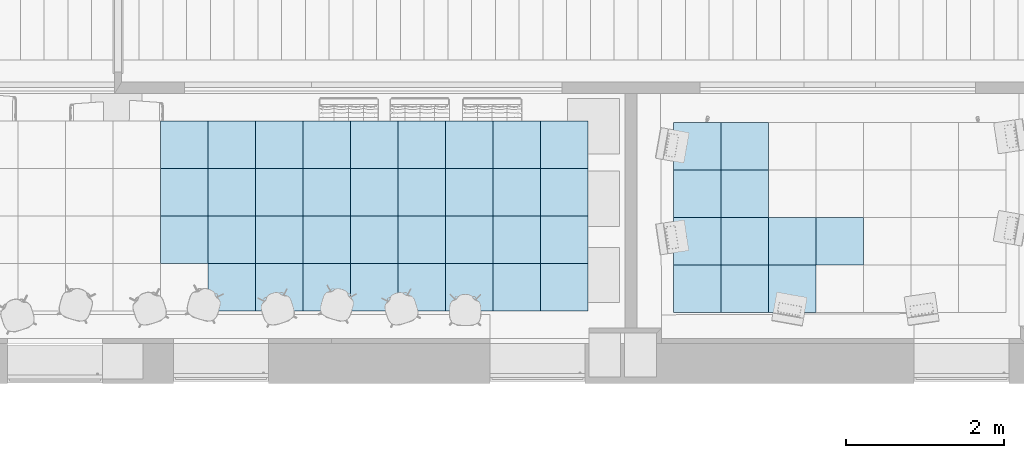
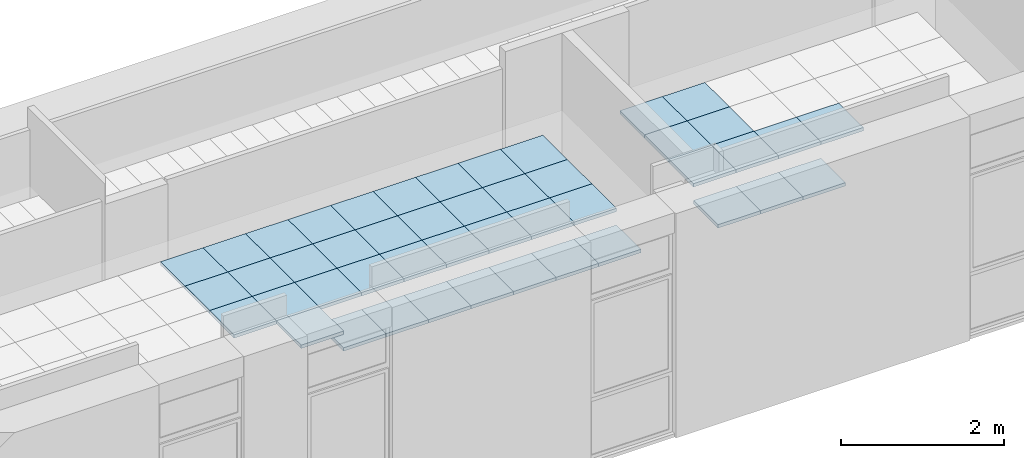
# One storey, part 18 of 60: 46 slabs.
"""IFC2X3 building model written with IfcOpenShell, lengths in millimetres."""

from ifc_helpers import new_model, entity, si_unit, converted_unit, derived_unit, money_unit, direction, frame, origin_with_axes, place, context, subcontext, project, spatial, polyline, outline, extrude, material, layer, layer_set, layer_usage, type_object, element, save


model = new_model("IFC2X3")

# Units and contexts
model_context = context("Model", 3, precision=0.01, world=origin_with_axes(), true_north=direction((0.0, 1.0)))
body_context = subcontext(model_context, "Body", "Model", "MODEL_VIEW")
ifc_project = project(units=[si_unit("LENGTHUNIT", "METRE", prefix="MILLI"), si_unit("AREAUNIT", "SQUARE_METRE"), si_unit("VOLUMEUNIT", "CUBIC_METRE"), converted_unit("PLANEANGLEUNIT", "DEGREE", entity("IfcPlaneAngleMeasure", 0.0174532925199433), si_unit("PLANEANGLEUNIT", "RADIAN"), dimensions=[0, 0, 0, 0, 0, 0, 0]), money_unit("USD"), converted_unit("TIMEUNIT", "Year", entity("IfcTimeMeasure", 31557600.0), si_unit("TIMEUNIT", "SECOND"), dimensions=[0, 0, 1, 0, 0, 0, 0]), si_unit("MASSUNIT", "GRAM", prefix="KILO"), si_unit("THERMODYNAMICTEMPERATUREUNIT", "DEGREE_CELSIUS"), si_unit("LUMINOUSINTENSITYUNIT", "LUMEN"), si_unit("ENERGYUNIT", "JOULE", prefix="MEGA"), derived_unit("THERMALCONDUCTANCEUNIT", [(si_unit("POWERUNIT", "WATT"), 1), (si_unit("LENGTHUNIT", "METRE"), -1), (si_unit("THERMODYNAMICTEMPERATUREUNIT", "KELVIN"), -1)]), derived_unit("SPECIFICHEATCAPACITYUNIT", [(si_unit("ENERGYUNIT", "JOULE"), 1), (si_unit("MASSUNIT", "GRAM", prefix="KILO"), -1), (si_unit("THERMODYNAMICTEMPERATUREUNIT", "KELVIN"), -1)]), derived_unit("MASSDENSITYUNIT", [(si_unit("MASSUNIT", "GRAM", prefix="KILO"), 1), (si_unit("VOLUMEUNIT", "CUBIC_METRE"), -1)])], contexts=[model_context])

# Site, building, storey
site_placement = place(None, origin_with_axes())
site = spatial("IfcSite", under=ifc_project, at=site_placement, Name="Sitio", CompositionType="ELEMENT")
building_placement = place(site_placement, origin_with_axes())
building = spatial("IfcBuilding", under=site, at=building_placement, Name="Construcción", CompositionType="ELEMENT")
storey_placement = place(building_placement, frame((0.0, 0.0, 3650.0), z_axis=(0.0, 0.0, 1.0), x_axis=(1.0, 0.0, 0.0)))
storey = spatial("IfcBuildingStorey", under=building, at=storey_placement, Name="PLANTA 2ª", CompositionType="ELEMENT", Elevation=3650.0)

# Slabs
ifc_material = material(Name="ARQ_CE217_Armstrong 60x60")
ifc_layer = layer(ifc_material, 50.0, ventilated="UNKNOWN")
ifc_layer_set = layer_set([ifc_layer], Name="ARQ_CE217_Armstrong 60x60 50")
ifc_layer_usage_1 = layer_usage(ifc_layer_set, "AXIS3", "NEGATIVE", 50.0)
slab_type = type_object("IfcSlabType", Name="ARQ_CE217_Armstrong 60x60 50", PredefinedType="NOTDEFINED")
slab_1_placement = place(storey_placement, frame((-14698.41789761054, 1017.289523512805, 2500.0), z_axis=(0.0, 0.0, 1.0), x_axis=(1.0, 0.0, 0.0)))
element("IfcSlab", 1, at=slab_1_placement, inside=storey, type_object=slab_type, material=ifc_layer_usage_1, Name="SLA - 026", PredefinedType="NOTDEFINED", context=body_context, shape_type="SweptSolid", body=[
    extrude(outline(polyline([(0.0, 0.0), (600.0000000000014, 0.0), (600.0000000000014, 600.0000000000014), (0.0, 600.0000000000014), (0.0, 0.0)])), frame((0.0, 0.0, -50.0), z_axis=(0.0, 0.0, 1.0), x_axis=(1.0, 0.0, 0.0)), (0.0, 0.0, 1.0), 50.0),
])
ifc_layer_usage_2 = layer_usage(ifc_layer_set, "AXIS3", "NEGATIVE", 50.0)
slab_2_placement = place(storey_placement, frame((-14098.41789761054, 417.2895235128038, 2500.0), z_axis=(0.0, 0.0, 1.0), x_axis=(1.0, 0.0, 0.0)))
element("IfcSlab", 2, at=slab_2_placement, inside=storey, type_object=slab_type, material=ifc_layer_usage_2, Name="SLA - 026", PredefinedType="NOTDEFINED", context=body_context, shape_type="SweptSolid", body=[
    extrude(outline(polyline([(0.0, 0.0), (599.9999999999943, 0.0), (599.9999999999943, 600.0000000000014), (0.0, 600.0000000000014), (0.0, 0.0)])), frame((0.0, 0.0, -50.0), z_axis=(0.0, 0.0, 1.0), x_axis=(1.0, 0.0, 0.0)), (0.0, 0.0, 1.0), 50.0),
])
ifc_layer_usage_3 = layer_usage(ifc_layer_set, "AXIS3", "NEGATIVE", 50.0)
slab_3_placement = place(storey_placement, frame((-16498.41789761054, -182.7104764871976, 2500.0), z_axis=(0.0, 0.0, 1.0), x_axis=(1.0, 0.0, 0.0)))
element("IfcSlab", 3, at=slab_3_placement, inside=storey, type_object=slab_type, material=ifc_layer_usage_3, Name="SLA - 026", PredefinedType="NOTDEFINED", context=body_context, shape_type="SweptSolid", body=[
    extrude(outline(polyline([(0.0, 0.0), (600.0000000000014, 0.0), (600.0000000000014, 600.0000000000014), (0.0, 600.0000000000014), (0.0, 0.0)])), frame((0.0, 0.0, -50.0), z_axis=(0.0, 0.0, 1.0), x_axis=(1.0, 0.0, 0.0)), (0.0, 0.0, 1.0), 50.0),
])
ifc_layer_usage_4 = layer_usage(ifc_layer_set, "AXIS3", "NEGATIVE", 50.0)
slab_4_placement = place(storey_placement, frame((-13498.41789761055, 417.2895235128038, 2500.0), z_axis=(0.0, 0.0, 1.0), x_axis=(1.0, 0.0, 0.0)))
element("IfcSlab", 4, at=slab_4_placement, inside=storey, type_object=slab_type, material=ifc_layer_usage_4, Name="SLA - 026", PredefinedType="NOTDEFINED", context=body_context, shape_type="SweptSolid", body=[
    extrude(outline(polyline([(0.0, 0.0), (600.0000000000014, 0.0), (600.0000000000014, 600.0000000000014), (0.0, 600.0000000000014), (0.0, 0.0)])), frame((0.0, 0.0, -50.0), z_axis=(0.0, 0.0, 1.0), x_axis=(1.0, 0.0, 0.0)), (0.0, 0.0, 1.0), 50.0),
])
ifc_layer_usage_5 = layer_usage(ifc_layer_set, "AXIS3", "NEGATIVE", 50.0)
slab_5_placement = place(storey_placement, frame((-15298.41789761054, 1017.289523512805, 2500.0), z_axis=(0.0, 0.0, 1.0), x_axis=(1.0, 0.0, 0.0)))
element("IfcSlab", 5, at=slab_5_placement, inside=storey, type_object=slab_type, material=ifc_layer_usage_5, Name="SLA - 026", PredefinedType="NOTDEFINED", context=body_context, shape_type="SweptSolid", body=[
    extrude(outline(polyline([(0.0, 0.0), (600.0000000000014, 0.0), (600.0000000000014, 600.0000000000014), (0.0, 600.0000000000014), (0.0, 0.0)])), frame((0.0, 0.0, -50.0), z_axis=(0.0, 0.0, 1.0), x_axis=(1.0, 0.0, 0.0)), (0.0, 0.0, 1.0), 50.0),
])
ifc_layer_usage_6 = layer_usage(ifc_layer_set, "AXIS3", "NEGATIVE", 50.0)
slab_6_placement = place(storey_placement, frame((-13498.41789761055, -182.7104764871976, 2500.0), z_axis=(0.0, 0.0, 1.0), x_axis=(1.0, 0.0, 0.0)))
element("IfcSlab", 6, at=slab_6_placement, inside=storey, type_object=slab_type, material=ifc_layer_usage_6, Name="SLA - 026", PredefinedType="NOTDEFINED", context=body_context, shape_type="SweptSolid", body=[
    extrude(outline(polyline([(0.0, 0.0), (600.0000000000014, 0.0), (600.0000000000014, 600.0000000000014), (0.0, 600.0000000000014), (0.0, 0.0)])), frame((0.0, 0.0, -50.0), z_axis=(0.0, 0.0, 1.0), x_axis=(1.0, 0.0, 0.0)), (0.0, 0.0, 1.0), 50.0),
])
ifc_layer_usage_7 = layer_usage(ifc_layer_set, "AXIS3", "NEGATIVE", 50.0)
slab_7_placement = place(storey_placement, frame((-14098.41789761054, 1017.289523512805, 2500.0), z_axis=(0.0, 0.0, 1.0), x_axis=(1.0, 0.0, 0.0)))
element("IfcSlab", 7, at=slab_7_placement, inside=storey, type_object=slab_type, material=ifc_layer_usage_7, Name="SLA - 026", PredefinedType="NOTDEFINED", context=body_context, shape_type="SweptSolid", body=[
    extrude(outline(polyline([(0.0, 0.0), (600.0000000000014, 0.0), (600.0000000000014, 600.0000000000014), (0.0, 600.0000000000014), (0.0, 0.0)])), frame((0.0, 0.0, -50.0), z_axis=(0.0, 0.0, 1.0), x_axis=(1.0, 0.0, 0.0)), (0.0, 0.0, 1.0), 50.0),
])
ifc_layer_usage_8 = layer_usage(ifc_layer_set, "AXIS3", "NEGATIVE", 50.0)
slab_8_placement = place(storey_placement, frame((-15898.41789761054, 417.2895235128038, 2500.0), z_axis=(0.0, 0.0, 1.0), x_axis=(1.0, 0.0, 0.0)))
element("IfcSlab", 8, at=slab_8_placement, inside=storey, type_object=slab_type, material=ifc_layer_usage_8, Name="SLA - 026", PredefinedType="NOTDEFINED", context=body_context, shape_type="SweptSolid", body=[
    extrude(outline(polyline([(0.0, 0.0), (599.9999999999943, 0.0), (599.9999999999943, 600.0000000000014), (0.0, 600.0000000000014), (0.0, 0.0)])), frame((0.0, 0.0, -50.0), z_axis=(0.0, 0.0, 1.0), x_axis=(1.0, 0.0, 0.0)), (0.0, 0.0, 1.0), 50.0),
])
ifc_layer_usage_9 = layer_usage(ifc_layer_set, "AXIS3", "NEGATIVE", 50.0)
slab_9_placement = place(storey_placement, frame((-13498.41789761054, 1017.289523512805, 2500.0), z_axis=(0.0, 0.0, 1.0), x_axis=(1.0, 0.0, 0.0)))
element("IfcSlab", 9, at=slab_9_placement, inside=storey, type_object=slab_type, material=ifc_layer_usage_9, Name="SLA - 026", PredefinedType="NOTDEFINED", context=body_context, shape_type="SweptSolid", body=[
    extrude(outline(polyline([(0.0, 0.0), (600.0000000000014, 0.0), (600.0000000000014, 600.0000000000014), (0.0, 600.0000000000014), (0.0, 0.0)])), frame((0.0, 0.0, -50.0), z_axis=(0.0, 0.0, 1.0), x_axis=(1.0, 0.0, 0.0)), (0.0, 0.0, 1.0), 50.0),
])
ifc_layer_usage_10 = layer_usage(ifc_layer_set, "AXIS3", "NEGATIVE", 50.0)
slab_10_placement = place(storey_placement, frame((-15898.41789761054, 1017.289523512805, 2500.0), z_axis=(0.0, 0.0, 1.0), x_axis=(1.0, 0.0, 0.0)))
element("IfcSlab", 10, at=slab_10_placement, inside=storey, type_object=slab_type, material=ifc_layer_usage_10, Name="SLA - 026", PredefinedType="NOTDEFINED", context=body_context, shape_type="SweptSolid", body=[
    extrude(outline(polyline([(0.0, 0.0), (599.9999999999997, 0.0), (599.9999999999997, 600.0000000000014), (0.0, 600.0000000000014), (0.0, 0.0)])), frame((0.0, 0.0, -50.0), z_axis=(0.0, 0.0, 1.0), x_axis=(1.0, 0.0, 0.0)), (0.0, 0.0, 1.0), 50.0),
])
ifc_layer_usage_11 = layer_usage(ifc_layer_set, "AXIS3", "NEGATIVE", 50.0)
slab_11_placement = place(storey_placement, frame((-16498.41789761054, 417.2895235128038, 2500.0), z_axis=(0.0, 0.0, 1.0), x_axis=(1.0, 0.0, 0.0)))
element("IfcSlab", 11, at=slab_11_placement, inside=storey, type_object=slab_type, material=ifc_layer_usage_11, Name="SLA - 026", PredefinedType="NOTDEFINED", context=body_context, shape_type="SweptSolid", body=[
    extrude(outline(polyline([(0.0, 0.0), (600.0000000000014, 0.0), (600.0000000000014, 600.0000000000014), (0.0, 600.0000000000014), (0.0, 0.0)])), frame((0.0, 0.0, -50.0), z_axis=(0.0, 0.0, 1.0), x_axis=(1.0, 0.0, 0.0)), (0.0, 0.0, 1.0), 50.0),
])
ifc_layer_usage_12 = layer_usage(ifc_layer_set, "AXIS3", "NEGATIVE", 50.0)
slab_12_placement = place(storey_placement, frame((-17698.41789761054, -782.710476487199, 2500.0), z_axis=(0.0, 0.0, 1.0), x_axis=(1.0, 0.0, 0.0)))
element("IfcSlab", 12, at=slab_12_placement, inside=storey, type_object=slab_type, material=ifc_layer_usage_12, Name="SLA - 026", PredefinedType="NOTDEFINED", context=body_context, shape_type="SweptSolid", body=[
    extrude(outline(polyline([(0.0, 0.0), (599.9999999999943, 0.0), (599.9999999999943, 600.0000000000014), (0.0, 600.0000000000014), (0.0, 0.0)])), frame((0.0, 0.0, -50.0), z_axis=(0.0, 0.0, 1.0), x_axis=(1.0, 0.0, 0.0)), (0.0, 0.0, 1.0), 50.0),
])
ifc_layer_usage_13 = layer_usage(ifc_layer_set, "AXIS3", "NEGATIVE", 50.0)
slab_13_placement = place(storey_placement, frame((-17698.41789761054, -182.7104764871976, 2500.0), z_axis=(0.0, 0.0, 1.0), x_axis=(1.0, 0.0, 0.0)))
element("IfcSlab", 13, at=slab_13_placement, inside=storey, type_object=slab_type, material=ifc_layer_usage_13, Name="SLA - 026", PredefinedType="NOTDEFINED", context=body_context, shape_type="SweptSolid", body=[
    extrude(outline(polyline([(0.0, 0.0), (599.9999999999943, 0.0), (599.9999999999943, 600.0000000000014), (0.0, 600.0000000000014), (0.0, 0.0)])), frame((0.0, 0.0, -50.0), z_axis=(0.0, 0.0, 1.0), x_axis=(1.0, 0.0, 0.0)), (0.0, 0.0, 1.0), 50.0),
])
ifc_layer_usage_14 = layer_usage(ifc_layer_set, "AXIS3", "NEGATIVE", 50.0)
slab_14_placement = place(storey_placement, frame((-18298.41789761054, -182.7104764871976, 2500.0), z_axis=(0.0, 0.0, 1.0), x_axis=(1.0, 0.0, 0.0)))
element("IfcSlab", 14, at=slab_14_placement, inside=storey, type_object=slab_type, material=ifc_layer_usage_14, Name="SLA - 026", PredefinedType="NOTDEFINED", context=body_context, shape_type="SweptSolid", body=[
    extrude(outline(polyline([(0.0, 0.0), (600.0000000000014, 0.0), (600.0000000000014, 600.0000000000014), (0.0, 600.0000000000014), (0.0, 0.0)])), frame((0.0, 0.0, -50.0), z_axis=(0.0, 0.0, 1.0), x_axis=(1.0, 0.0, 0.0)), (0.0, 0.0, 1.0), 50.0),
])
ifc_layer_usage_15 = layer_usage(ifc_layer_set, "AXIS3", "NEGATIVE", 50.0)
slab_15_placement = place(storey_placement, frame((-15298.41789761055, -182.7104764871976, 2500.0), z_axis=(0.0, 0.0, 1.0), x_axis=(1.0, 0.0, 0.0)))
element("IfcSlab", 15, at=slab_15_placement, inside=storey, type_object=slab_type, material=ifc_layer_usage_15, Name="SLA - 026", PredefinedType="NOTDEFINED", context=body_context, shape_type="SweptSolid", body=[
    extrude(outline(polyline([(0.0, 0.0), (600.0000000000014, 0.0), (600.0000000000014, 600.0000000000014), (0.0, 600.0000000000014), (0.0, 0.0)])), frame((0.0, 0.0, -50.0), z_axis=(0.0, 0.0, 1.0), x_axis=(1.0, 0.0, 0.0)), (0.0, 0.0, 1.0), 50.0),
])
ifc_layer_usage_16 = layer_usage(ifc_layer_set, "AXIS3", "NEGATIVE", 50.0)
slab_16_placement = place(storey_placement, frame((-13498.41789761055, -782.710476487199, 2250.0), z_axis=(0.0, 0.0, 1.0), x_axis=(1.0, 0.0, 0.0)))
element("IfcSlab", 16, at=slab_16_placement, inside=storey, type_object=slab_type, material=ifc_layer_usage_16, Name="SLA - 026", PredefinedType="NOTDEFINED", context=body_context, shape_type="SweptSolid", body=[
    extrude(outline(polyline([(0.0, 0.0), (600.0000000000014, 0.0), (600.0000000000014, 600.0000000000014), (0.0, 600.0000000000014), (0.0, 0.0)])), frame((0.0, 0.0, -50.0), z_axis=(0.0, 0.0, 1.0), x_axis=(1.0, 0.0, 0.0)), (0.0, 0.0, 1.0), 50.0),
])
ifc_layer_usage_17 = layer_usage(ifc_layer_set, "AXIS3", "NEGATIVE", 50.0)
slab_17_placement = place(storey_placement, frame((-15898.41789761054, -182.7104764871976, 2500.0), z_axis=(0.0, 0.0, 1.0), x_axis=(1.0, 0.0, 0.0)))
element("IfcSlab", 17, at=slab_17_placement, inside=storey, type_object=slab_type, material=ifc_layer_usage_17, Name="SLA - 026", PredefinedType="NOTDEFINED", context=body_context, shape_type="SweptSolid", body=[
    extrude(outline(polyline([(0.0, 0.0), (599.9999999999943, 0.0), (599.9999999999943, 600.0000000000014), (0.0, 600.0000000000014), (0.0, 0.0)])), frame((0.0, 0.0, -50.0), z_axis=(0.0, 0.0, 1.0), x_axis=(1.0, 0.0, 0.0)), (0.0, 0.0, 1.0), 50.0),
])
ifc_layer_usage_18 = layer_usage(ifc_layer_set, "AXIS3", "NEGATIVE", 50.0)
slab_18_placement = place(storey_placement, frame((-17098.41789761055, 417.2895235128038, 2500.0), z_axis=(0.0, 0.0, 1.0), x_axis=(1.0, 0.0, 0.0)))
element("IfcSlab", 18, at=slab_18_placement, inside=storey, type_object=slab_type, material=ifc_layer_usage_18, Name="SLA - 026", PredefinedType="NOTDEFINED", context=body_context, shape_type="SweptSolid", body=[
    extrude(outline(polyline([(0.0, 0.0), (600.0000000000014, 0.0), (600.0000000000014, 600.0000000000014), (0.0, 600.0000000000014), (0.0, 0.0)])), frame((0.0, 0.0, -50.0), z_axis=(0.0, 0.0, 1.0), x_axis=(1.0, 0.0, 0.0)), (0.0, 0.0, 1.0), 50.0),
])
ifc_layer_usage_19 = layer_usage(ifc_layer_set, "AXIS3", "NEGATIVE", 50.0)
slab_19_placement = place(storey_placement, frame((-18298.41789761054, 417.2895235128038, 2500.0), z_axis=(0.0, 0.0, 1.0), x_axis=(1.0, 0.0, 0.0)))
element("IfcSlab", 19, at=slab_19_placement, inside=storey, type_object=slab_type, material=ifc_layer_usage_19, Name="SLA - 026", PredefinedType="NOTDEFINED", context=body_context, shape_type="SweptSolid", body=[
    extrude(outline(polyline([(0.0, 0.0), (600.0000000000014, 0.0), (600.0000000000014, 600.0000000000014), (0.0, 600.0000000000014), (0.0, 0.0)])), frame((0.0, 0.0, -50.0), z_axis=(0.0, 0.0, 1.0), x_axis=(1.0, 0.0, 0.0)), (0.0, 0.0, 1.0), 50.0),
])
ifc_layer_usage_20 = layer_usage(ifc_layer_set, "AXIS3", "NEGATIVE", 50.0)
slab_20_placement = place(storey_placement, frame((-17698.41789761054, 417.2895235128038, 2500.0), z_axis=(0.0, 0.0, 1.0), x_axis=(1.0, 0.0, 0.0)))
element("IfcSlab", 20, at=slab_20_placement, inside=storey, type_object=slab_type, material=ifc_layer_usage_20, Name="SLA - 026", PredefinedType="NOTDEFINED", context=body_context, shape_type="SweptSolid", body=[
    extrude(outline(polyline([(0.0, 0.0), (599.9999999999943, 0.0), (599.9999999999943, 600.0000000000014), (0.0, 600.0000000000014), (0.0, 0.0)])), frame((0.0, 0.0, -50.0), z_axis=(0.0, 0.0, 1.0), x_axis=(1.0, 0.0, 0.0)), (0.0, 0.0, 1.0), 50.0),
])
ifc_layer_usage_21 = layer_usage(ifc_layer_set, "AXIS3", "NEGATIVE", 50.0)
slab_21_placement = place(storey_placement, frame((-16498.41789761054, -782.710476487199, 2250.0), z_axis=(0.0, 0.0, 1.0), x_axis=(1.0, 0.0, 0.0)))
element("IfcSlab", 21, at=slab_21_placement, inside=storey, type_object=slab_type, material=ifc_layer_usage_21, Name="SLA - 026", PredefinedType="NOTDEFINED", context=body_context, shape_type="SweptSolid", body=[
    extrude(outline(polyline([(0.0, 0.0), (600.0000000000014, 0.0), (600.0000000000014, 600.0000000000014), (0.0, 600.0000000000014), (0.0, 0.0)])), frame((0.0, 0.0, -50.0), z_axis=(0.0, 0.0, 1.0), x_axis=(1.0, 0.0, 0.0)), (0.0, 0.0, 1.0), 50.0),
])
ifc_layer_usage_22 = layer_usage(ifc_layer_set, "AXIS3", "NEGATIVE", 50.0)
slab_22_placement = place(storey_placement, frame((-15298.41789761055, -782.710476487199, 2250.0), z_axis=(0.0, 0.0, 1.0), x_axis=(1.0, 0.0, 0.0)))
element("IfcSlab", 22, at=slab_22_placement, inside=storey, type_object=slab_type, material=ifc_layer_usage_22, Name="SLA - 026", PredefinedType="NOTDEFINED", context=body_context, shape_type="SweptSolid", body=[
    extrude(outline(polyline([(0.0, 0.0), (600.0000000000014, 0.0), (600.0000000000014, 600.0000000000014), (0.0, 600.0000000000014), (0.0, 0.0)])), frame((0.0, 0.0, -50.0), z_axis=(0.0, 0.0, 1.0), x_axis=(1.0, 0.0, 0.0)), (0.0, 0.0, 1.0), 50.0),
])
ifc_layer_usage_23 = layer_usage(ifc_layer_set, "AXIS3", "NEGATIVE", 50.0)
slab_23_placement = place(storey_placement, frame((-17098.41789761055, -782.710476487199, 2250.0), z_axis=(0.0, 0.0, 1.0), x_axis=(1.0, 0.0, 0.0)))
element("IfcSlab", 23, at=slab_23_placement, inside=storey, type_object=slab_type, material=ifc_layer_usage_23, Name="SLA - 026", PredefinedType="NOTDEFINED", context=body_context, shape_type="SweptSolid", body=[
    extrude(outline(polyline([(0.0, 0.0), (600.0000000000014, 0.0), (600.0000000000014, 600.0000000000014), (0.0, 600.0000000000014), (0.0, 0.0)])), frame((0.0, 0.0, -50.0), z_axis=(0.0, 0.0, 1.0), x_axis=(1.0, 0.0, 0.0)), (0.0, 0.0, 1.0), 50.0),
])
ifc_layer_usage_24 = layer_usage(ifc_layer_set, "AXIS3", "NEGATIVE", 50.0)
slab_24_placement = place(storey_placement, frame((-14098.41789761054, -182.7104764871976, 2500.0), z_axis=(0.0, 0.0, 1.0), x_axis=(1.0, 0.0, 0.0)))
element("IfcSlab", 24, at=slab_24_placement, inside=storey, type_object=slab_type, material=ifc_layer_usage_24, Name="SLA - 026", PredefinedType="NOTDEFINED", context=body_context, shape_type="SweptSolid", body=[
    extrude(outline(polyline([(0.0, 0.0), (599.9999999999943, 0.0), (599.9999999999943, 600.0000000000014), (0.0, 600.0000000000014), (0.0, 0.0)])), frame((0.0, 0.0, -50.0), z_axis=(0.0, 0.0, 1.0), x_axis=(1.0, 0.0, 0.0)), (0.0, 0.0, 1.0), 50.0),
])
ifc_layer_usage_25 = layer_usage(ifc_layer_set, "AXIS3", "NEGATIVE", 50.0)
slab_25_placement = place(storey_placement, frame((-14698.41789761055, 417.2895235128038, 2500.0), z_axis=(0.0, 0.0, 1.0), x_axis=(1.0, 0.0, 0.0)))
element("IfcSlab", 25, at=slab_25_placement, inside=storey, type_object=slab_type, material=ifc_layer_usage_25, Name="SLA - 026", PredefinedType="NOTDEFINED", context=body_context, shape_type="SweptSolid", body=[
    extrude(outline(polyline([(0.0, 0.0), (600.000000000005, 0.0), (600.000000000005, 600.0000000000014), (0.0, 600.0000000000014), (0.0, 0.0)])), frame((0.0, 0.0, -50.0), z_axis=(0.0, 0.0, 1.0), x_axis=(1.0, 0.0, 0.0)), (0.0, 0.0, 1.0), 50.0),
])
ifc_layer_usage_26 = layer_usage(ifc_layer_set, "AXIS3", "NEGATIVE", 50.0)
slab_26_placement = place(storey_placement, frame((-14698.41789761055, -182.7104764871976, 2500.0), z_axis=(0.0, 0.0, 1.0), x_axis=(1.0, 0.0, 0.0)))
element("IfcSlab", 26, at=slab_26_placement, inside=storey, type_object=slab_type, material=ifc_layer_usage_26, Name="SLA - 026", PredefinedType="NOTDEFINED", context=body_context, shape_type="SweptSolid", body=[
    extrude(outline(polyline([(0.0, 0.0), (600.000000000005, 0.0), (600.000000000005, 600.0000000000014), (0.0, 600.0000000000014), (0.0, 0.0)])), frame((0.0, 0.0, -50.0), z_axis=(0.0, 0.0, 1.0), x_axis=(1.0, 0.0, 0.0)), (0.0, 0.0, 1.0), 50.0),
])
ifc_layer_usage_27 = layer_usage(ifc_layer_set, "AXIS3", "NEGATIVE", 50.0)
slab_27_placement = place(storey_placement, frame((-14098.41789761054, -782.710476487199, 2250.0), z_axis=(0.0, 0.0, 1.0), x_axis=(1.0, 0.0, 0.0)))
element("IfcSlab", 27, at=slab_27_placement, inside=storey, type_object=slab_type, material=ifc_layer_usage_27, Name="SLA - 026", PredefinedType="NOTDEFINED", context=body_context, shape_type="SweptSolid", body=[
    extrude(outline(polyline([(0.0, 0.0), (599.9999999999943, 0.0), (599.9999999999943, 600.0000000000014), (0.0, 600.0000000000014), (0.0, 0.0)])), frame((0.0, 0.0, -50.0), z_axis=(0.0, 0.0, 1.0), x_axis=(1.0, 0.0, 0.0)), (0.0, 0.0, 1.0), 50.0),
])
ifc_layer_usage_28 = layer_usage(ifc_layer_set, "AXIS3", "NEGATIVE", 50.0)
slab_28_placement = place(storey_placement, frame((-14698.41789761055, -782.710476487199, 2250.0), z_axis=(0.0, 0.0, 1.0), x_axis=(1.0, 0.0, 0.0)))
element("IfcSlab", 28, at=slab_28_placement, inside=storey, type_object=slab_type, material=ifc_layer_usage_28, Name="SLA - 026", PredefinedType="NOTDEFINED", context=body_context, shape_type="SweptSolid", body=[
    extrude(outline(polyline([(0.0, 0.0), (600.000000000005, 0.0), (600.000000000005, 600.0000000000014), (0.0, 600.0000000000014), (0.0, 0.0)])), frame((0.0, 0.0, -50.0), z_axis=(0.0, 0.0, 1.0), x_axis=(1.0, 0.0, 0.0)), (0.0, 0.0, 1.0), 50.0),
])
ifc_layer_usage_29 = layer_usage(ifc_layer_set, "AXIS3", "NEGATIVE", 50.0)
slab_29_placement = place(storey_placement, frame((-15898.41789761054, -782.710476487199, 2250.0), z_axis=(0.0, 0.0, 1.0), x_axis=(1.0, 0.0, 0.0)))
element("IfcSlab", 29, at=slab_29_placement, inside=storey, type_object=slab_type, material=ifc_layer_usage_29, Name="SLA - 026", PredefinedType="NOTDEFINED", context=body_context, shape_type="SweptSolid", body=[
    extrude(outline(polyline([(0.0, 0.0), (599.9999999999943, 0.0), (599.9999999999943, 600.0000000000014), (0.0, 600.0000000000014), (0.0, 0.0)])), frame((0.0, 0.0, -50.0), z_axis=(0.0, 0.0, 1.0), x_axis=(1.0, 0.0, 0.0)), (0.0, 0.0, 1.0), 50.0),
])
ifc_layer_usage_30 = layer_usage(ifc_layer_set, "AXIS3", "NEGATIVE", 50.0)
slab_30_placement = place(storey_placement, frame((-15298.41789761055, 417.2895235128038, 2500.0), z_axis=(0.0, 0.0, 1.0), x_axis=(1.0, 0.0, 0.0)))
element("IfcSlab", 30, at=slab_30_placement, inside=storey, type_object=slab_type, material=ifc_layer_usage_30, Name="SLA - 026", PredefinedType="NOTDEFINED", context=body_context, shape_type="SweptSolid", body=[
    extrude(outline(polyline([(0.0, 0.0), (600.0000000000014, 0.0), (600.0000000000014, 600.0000000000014), (0.0, 600.0000000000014), (0.0, 0.0)])), frame((0.0, 0.0, -50.0), z_axis=(0.0, 0.0, 1.0), x_axis=(1.0, 0.0, 0.0)), (0.0, 0.0, 1.0), 50.0),
])
ifc_layer_usage_31 = layer_usage(ifc_layer_set, "AXIS3", "NEGATIVE", 50.0)
slab_31_placement = place(storey_placement, frame((-17098.41789761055, -182.7104764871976, 2500.0), z_axis=(0.0, 0.0, 1.0), x_axis=(1.0, 0.0, 0.0)))
element("IfcSlab", 31, at=slab_31_placement, inside=storey, type_object=slab_type, material=ifc_layer_usage_31, Name="SLA - 026", PredefinedType="NOTDEFINED", context=body_context, shape_type="SweptSolid", body=[
    extrude(outline(polyline([(0.0, 0.0), (600.0000000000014, 0.0), (600.0000000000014, 600.0000000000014), (0.0, 600.0000000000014), (0.0, 0.0)])), frame((0.0, 0.0, -50.0), z_axis=(0.0, 0.0, 1.0), x_axis=(1.0, 0.0, 0.0)), (0.0, 0.0, 1.0), 50.0),
])
ifc_layer_usage_32 = layer_usage(ifc_layer_set, "AXIS3", "NEGATIVE", 50.0)
slab_32_placement = place(storey_placement, frame((-18298.41789761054, 1017.289523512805, 2500.0), z_axis=(0.0, 0.0, 1.0), x_axis=(1.0, 0.0, 0.0)))
element("IfcSlab", 32, at=slab_32_placement, inside=storey, type_object=slab_type, material=ifc_layer_usage_32, Name="SLA - 026", PredefinedType="NOTDEFINED", context=body_context, shape_type="SweptSolid", body=[
    extrude(outline(polyline([(0.0, 0.0), (600.0000000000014, 0.0), (600.0000000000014, 600.0000000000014), (0.0, 600.0000000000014), (0.0, 0.0)])), frame((0.0, 0.0, -50.0), z_axis=(0.0, 0.0, 1.0), x_axis=(1.0, 0.0, 0.0)), (0.0, 0.0, 1.0), 50.0),
])
ifc_layer_usage_33 = layer_usage(ifc_layer_set, "AXIS3", "NEGATIVE", 50.0)
slab_33_placement = place(storey_placement, frame((-17698.41789761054, 1017.289523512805, 2500.0), z_axis=(0.0, 0.0, 1.0), x_axis=(1.0, 0.0, 0.0)))
element("IfcSlab", 33, at=slab_33_placement, inside=storey, type_object=slab_type, material=ifc_layer_usage_33, Name="SLA - 026", PredefinedType="NOTDEFINED", context=body_context, shape_type="SweptSolid", body=[
    extrude(outline(polyline([(0.0, 0.0), (600.0000000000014, 0.0), (600.0000000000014, 600.0000000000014), (0.0, 600.0000000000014), (0.0, 0.0)])), frame((0.0, 0.0, -50.0), z_axis=(0.0, 0.0, 1.0), x_axis=(1.0, 0.0, 0.0)), (0.0, 0.0, 1.0), 50.0),
])
ifc_layer_usage_34 = layer_usage(ifc_layer_set, "AXIS3", "NEGATIVE", 50.0)
slab_34_placement = place(storey_placement, frame((-17098.41789761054, 1017.289523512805, 2500.0), z_axis=(0.0, 0.0, 1.0), x_axis=(1.0, 0.0, 0.0)))
element("IfcSlab", 34, at=slab_34_placement, inside=storey, type_object=slab_type, material=ifc_layer_usage_34, Name="SLA - 026", PredefinedType="NOTDEFINED", context=body_context, shape_type="SweptSolid", body=[
    extrude(outline(polyline([(0.0, 0.0), (600.0000000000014, 0.0), (600.0000000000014, 600.0000000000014), (0.0, 600.0000000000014), (0.0, 0.0)])), frame((0.0, 0.0, -50.0), z_axis=(0.0, 0.0, 1.0), x_axis=(1.0, 0.0, 0.0)), (0.0, 0.0, 1.0), 50.0),
])
ifc_layer_usage_35 = layer_usage(ifc_layer_set, "AXIS3", "NEGATIVE", 50.0)
slab_35_placement = place(storey_placement, frame((-16498.41789761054, 1017.289523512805, 2500.0), z_axis=(0.0, 0.0, 1.0), x_axis=(1.0, 0.0, 0.0)))
element("IfcSlab", 35, at=slab_35_placement, inside=storey, type_object=slab_type, material=ifc_layer_usage_35, Name="SLA - 026", PredefinedType="NOTDEFINED", context=body_context, shape_type="SweptSolid", body=[
    extrude(outline(polyline([(0.0, 0.0), (600.0000000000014, 0.0), (600.0000000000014, 600.0000000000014), (0.0, 600.0000000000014), (0.0, 0.0)])), frame((0.0, 0.0, -50.0), z_axis=(0.0, 0.0, 1.0), x_axis=(1.0, 0.0, 0.0)), (0.0, 0.0, 1.0), 50.0),
])
ifc_layer_usage_36 = layer_usage(ifc_layer_set, "AXIS3", "NEGATIVE", 50.0)
slab_36_placement = place(storey_placement, frame((-10020.1072685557, -200.7462075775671, 2500.0), z_axis=(0.0, 0.0, 1.0), x_axis=(1.0, 0.0, 0.0)))
element("IfcSlab", 36, at=slab_36_placement, inside=storey, type_object=slab_type, material=ifc_layer_usage_36, Name="SLA - 026", PredefinedType="NOTDEFINED", context=body_context, shape_type="SweptSolid", body=[
    extrude(outline(polyline([(0.0, 0.0), (600.0000000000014, 0.0), (600.0000000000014, 600.0000000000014), (0.0, 600.0000000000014), (0.0, 0.0)])), frame((0.0, 0.0, -50.0), z_axis=(0.0, 0.0, 1.0), x_axis=(1.0, 0.0, 0.0)), (0.0, 0.0, 1.0), 50.0),
])
ifc_layer_usage_37 = layer_usage(ifc_layer_set, "AXIS3", "NEGATIVE", 50.0)
slab_37_placement = place(storey_placement, frame((-10620.10726855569, -800.7462075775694, 2250.0), z_axis=(0.0, 0.0, 1.0), x_axis=(1.0, 0.0, 0.0)))
element("IfcSlab", 37, at=slab_37_placement, inside=storey, type_object=slab_type, material=ifc_layer_usage_37, Name="SLA - 026", PredefinedType="NOTDEFINED", context=body_context, shape_type="SweptSolid", body=[
    extrude(outline(polyline([(0.0, 0.0), (599.9999999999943, 0.0), (599.9999999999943, 600.0000000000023), (0.0, 600.0000000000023), (0.0, 0.0)])), frame((0.0, 0.0, -50.0), z_axis=(0.0, 0.0, 1.0), x_axis=(1.0, 0.0, 0.0)), (0.0, 0.0, 1.0), 50.0),
])
ifc_layer_usage_38 = layer_usage(ifc_layer_set, "AXIS3", "NEGATIVE", 50.0)
slab_38_placement = place(storey_placement, frame((-11820.1072685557, -800.7462075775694, 2250.0), z_axis=(0.0, 0.0, 1.0), x_axis=(1.0, 0.0, 0.0)))
element("IfcSlab", 38, at=slab_38_placement, inside=storey, type_object=slab_type, material=ifc_layer_usage_38, Name="SLA - 026", PredefinedType="NOTDEFINED", context=body_context, shape_type="SweptSolid", body=[
    extrude(outline(polyline([(0.0, 0.0), (600.0000000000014, 0.0), (600.0000000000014, 600.0000000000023), (0.0, 600.0000000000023), (0.0, 0.0)])), frame((0.0, 0.0, -50.0), z_axis=(0.0, 0.0, 1.0), x_axis=(1.0, 0.0, 0.0)), (0.0, 0.0, 1.0), 50.0),
])
ifc_layer_usage_39 = layer_usage(ifc_layer_set, "AXIS3", "NEGATIVE", 50.0)
slab_39_placement = place(storey_placement, frame((-11820.1072685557, 399.2537924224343, 2500.0), z_axis=(0.0, 0.0, 1.0), x_axis=(1.0, 0.0, 0.0)))
element("IfcSlab", 39, at=slab_39_placement, inside=storey, type_object=slab_type, material=ifc_layer_usage_39, Name="SLA - 026", PredefinedType="NOTDEFINED", context=body_context, shape_type="SweptSolid", body=[
    extrude(outline(polyline([(0.0, 0.0), (600.0000000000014, 0.0), (600.0000000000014, 599.9999999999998), (0.0, 599.9999999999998), (0.0, 0.0)])), frame((0.0, 0.0, -50.0), z_axis=(0.0, 0.0, 1.0), x_axis=(1.0, 0.0, 0.0)), (0.0, 0.0, 1.0), 50.0),
])
ifc_layer_usage_40 = layer_usage(ifc_layer_set, "AXIS3", "NEGATIVE", 50.0)
slab_40_placement = place(storey_placement, frame((-11220.10726855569, -800.7462075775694, 2250.0), z_axis=(0.0, 0.0, 1.0), x_axis=(1.0, 0.0, 0.0)))
element("IfcSlab", 40, at=slab_40_placement, inside=storey, type_object=slab_type, material=ifc_layer_usage_40, Name="SLA - 026", PredefinedType="NOTDEFINED", context=body_context, shape_type="SweptSolid", body=[
    extrude(outline(polyline([(0.0, 0.0), (600.0000000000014, 0.0), (600.0000000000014, 600.0000000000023), (0.0, 600.0000000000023), (0.0, 0.0)])), frame((0.0, 0.0, -50.0), z_axis=(0.0, 0.0, 1.0), x_axis=(1.0, 0.0, 0.0)), (0.0, 0.0, 1.0), 50.0),
])
ifc_layer_usage_41 = layer_usage(ifc_layer_set, "AXIS3", "NEGATIVE", 50.0)
slab_41_placement = place(storey_placement, frame((-10620.10726855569, -200.7462075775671, 2500.0), z_axis=(0.0, 0.0, 1.0), x_axis=(1.0, 0.0, 0.0)))
element("IfcSlab", 41, at=slab_41_placement, inside=storey, type_object=slab_type, material=ifc_layer_usage_41, Name="SLA - 026", PredefinedType="NOTDEFINED", context=body_context, shape_type="SweptSolid", body=[
    extrude(outline(polyline([(0.0, 0.0), (599.9999999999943, 0.0), (599.9999999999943, 600.0000000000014), (0.0, 600.0000000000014), (0.0, 0.0)])), frame((0.0, 0.0, -50.0), z_axis=(0.0, 0.0, 1.0), x_axis=(1.0, 0.0, 0.0)), (0.0, 0.0, 1.0), 50.0),
])
ifc_layer_usage_42 = layer_usage(ifc_layer_set, "AXIS3", "NEGATIVE", 50.0)
slab_42_placement = place(storey_placement, frame((-11220.10726855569, 999.2537924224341, 2500.0), z_axis=(0.0, 0.0, 1.0), x_axis=(1.0, 0.0, 0.0)))
element("IfcSlab", 42, at=slab_42_placement, inside=storey, type_object=slab_type, material=ifc_layer_usage_42, Name="SLA - 026", PredefinedType="NOTDEFINED", context=body_context, shape_type="SweptSolid", body=[
    extrude(outline(polyline([(0.0, 0.0), (600.0000000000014, 0.0), (600.0000000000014, 600.0000000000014), (0.0, 600.0000000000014), (0.0, 0.0)])), frame((0.0, 0.0, -50.0), z_axis=(0.0, 0.0, 1.0), x_axis=(1.0, 0.0, 0.0)), (0.0, 0.0, 1.0), 50.0),
])
ifc_layer_usage_43 = layer_usage(ifc_layer_set, "AXIS3", "NEGATIVE", 50.0)
slab_43_placement = place(storey_placement, frame((-11820.1072685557, -200.7462075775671, 2500.0), z_axis=(0.0, 0.0, 1.0), x_axis=(1.0, 0.0, 0.0)))
element("IfcSlab", 43, at=slab_43_placement, inside=storey, type_object=slab_type, material=ifc_layer_usage_43, Name="SLA - 026", PredefinedType="NOTDEFINED", context=body_context, shape_type="SweptSolid", body=[
    extrude(outline(polyline([(0.0, 0.0), (600.0000000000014, 0.0), (600.0000000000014, 600.0000000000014), (0.0, 600.0000000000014), (0.0, 0.0)])), frame((0.0, 0.0, -50.0), z_axis=(0.0, 0.0, 1.0), x_axis=(1.0, 0.0, 0.0)), (0.0, 0.0, 1.0), 50.0),
])
ifc_layer_usage_44 = layer_usage(ifc_layer_set, "AXIS3", "NEGATIVE", 50.0)
slab_44_placement = place(storey_placement, frame((-11220.10726855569, -200.7462075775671, 2500.0), z_axis=(0.0, 0.0, 1.0), x_axis=(1.0, 0.0, 0.0)))
element("IfcSlab", 44, at=slab_44_placement, inside=storey, type_object=slab_type, material=ifc_layer_usage_44, Name="SLA - 026", PredefinedType="NOTDEFINED", context=body_context, shape_type="SweptSolid", body=[
    extrude(outline(polyline([(0.0, 0.0), (600.0000000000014, 0.0), (600.0000000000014, 600.0000000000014), (0.0, 600.0000000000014), (0.0, 0.0)])), frame((0.0, 0.0, -50.0), z_axis=(0.0, 0.0, 1.0), x_axis=(1.0, 0.0, 0.0)), (0.0, 0.0, 1.0), 50.0),
])
ifc_layer_usage_45 = layer_usage(ifc_layer_set, "AXIS3", "NEGATIVE", 50.0)
slab_45_placement = place(storey_placement, frame((-11820.1072685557, 999.2537924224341, 2500.0), z_axis=(0.0, 0.0, 1.0), x_axis=(1.0, 0.0, 0.0)))
element("IfcSlab", 45, at=slab_45_placement, inside=storey, type_object=slab_type, material=ifc_layer_usage_45, Name="SLA - 026", PredefinedType="NOTDEFINED", context=body_context, shape_type="SweptSolid", body=[
    extrude(outline(polyline([(0.0, 0.0), (600.0000000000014, 0.0), (600.0000000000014, 600.0000000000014), (0.0, 600.0000000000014), (0.0, 0.0)])), frame((0.0, 0.0, -50.0), z_axis=(0.0, 0.0, 1.0), x_axis=(1.0, 0.0, 0.0)), (0.0, 0.0, 1.0), 50.0),
])
ifc_layer_usage_46 = layer_usage(ifc_layer_set, "AXIS3", "NEGATIVE", 50.0)
slab_46_placement = place(storey_placement, frame((-11220.10726855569, 399.2537924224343, 2500.0), z_axis=(0.0, 0.0, 1.0), x_axis=(1.0, 0.0, 0.0)))
element("IfcSlab", 46, at=slab_46_placement, inside=storey, type_object=slab_type, material=ifc_layer_usage_46, Name="SLA - 026", PredefinedType="NOTDEFINED", context=body_context, shape_type="SweptSolid", body=[
    extrude(outline(polyline([(0.0, 0.0), (600.0000000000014, 0.0), (600.0000000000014, 599.9999999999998), (0.0, 599.9999999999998), (0.0, 0.0)])), frame((0.0, 0.0, -50.0), z_axis=(0.0, 0.0, 1.0), x_axis=(1.0, 0.0, 0.0)), (0.0, 0.0, 1.0), 50.0),
])

save(model, "model.ifc")
